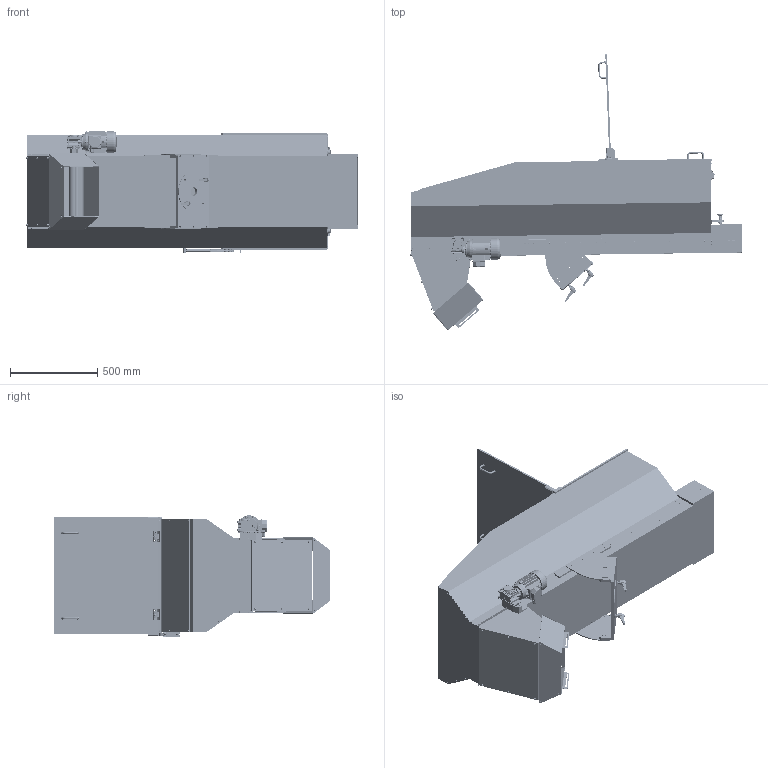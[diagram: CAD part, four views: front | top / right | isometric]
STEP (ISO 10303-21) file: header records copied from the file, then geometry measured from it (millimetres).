
FILE_DESCRIPTION (( 'STEP AP214' ), '1' );
FILE_NAME ('GM001464.00.step', '2026-07-06T12:04:07', ( '' ), ( '' ), 'SwSTEP 2.0', 'SolidWorks 2025', '' );
FILE_SCHEMA (( 'AUTOMOTIVE_DESIGN' ));
Length unit declared in the file: millimetre
Products named in the file (76): Copy of 40-TRM-BLO-002D-0-159^Copy of Blocco su sportello-1_3_Copy of Versione sportello APERTO_3_Copy of 20-TRM-KIT-005-0-150litri_1_CM001895; Copy of Cerniere-3_3^Copy of Versione sportello CHIUSO_3_Copy of 20-TRM-KIT-005-0-150litri_1_CM001895; Copy of MollaGasStabilus_082511_c100_f200_pos265.5_est100_3^Copy of Molla a gas-1_3_Copy of Versione sportello APERTO_3_Copy of 20-TRM-KIT-005-0-150litri_1_CM001895; Copy of ManElesa_GN425-10-88-CR_26501-1_3^Copy of Maniglie_3_Copy of Lexan sportello_3_Copy of Versione sportello CHIUSO_3_Copy of 20-TRM-KIT-005-0-150litri_1_CM001895; Copy of Spina_3^Copy of 20-TRM-KIT-005-0-150litri_1_CM001895; Copy of _Hinge with adjustable friction CFU.60 CH-6_1-158^Copy of CERNELESA_CFU-60-CH-6_427522-9_Copy of Cerniere-4_Copy of Versione sportello APERTO_3_Copy of 20-TRM-KIT-005-0-150litri_1_C~; Copy of Lamiera copertura_3^Copy of 20-TRM-KIT-005-0-150litri_1_CM001895; PD001825; Copy of 40-TRM-BLO-001-0_3^Copy of Blocchetto aggancio molla_3_Copy of 20-TRM-KIT-005-0-150litri_1_CM001895; Copy of MollaGasStabilus_082511_c100_f200_pos170_est4.5-160_1^Copy of MollaGasStabilus_082511_c100_f200_pos265.5_est100_3_Copy of Molla a gas-1_3_Copy of Versione sportello APERTO_3_Copy of ~; Copy of MollaGasStabilus_082511_c100_f200_pos170_est4.5-132^Copy of MollaGasStabilus_082511_c100_f200_pos170_est4.5_3_Copy of Molla a gas_3_Copy of Versione sportello CHIUSO_3_Copy of 20-TR~; Copy of 40-TRM-PIA-009-0_1^Copy of Piatto irrigidimento_3_Copy of Versione sportello CHIUSO_3_Copy of 20-TRM-KIT-005-0-150litri_1_CM001895; Copy of ManElesa_GN425-10-88-CR_26501-151^Copy of ManElesa_GN425-10-88-CR_26501-3_3_Copy of Maniglie-1_3_Copy of Lexan sportello-1_3_Copy of Versione sportello APERTO_3_Copy of 20-TRM-KIT-0~; GM001464.00; Copy of _Hinge with adjustable friction CFU.60 CH-60_2-140_1^Copy of CERNELESA_CFU-60-CH-6_427522-6_3_Copy of Superiori-1_3_Copy of Cerniere-3_3_Copy of Versione sportello CHIUSO_3_Copy of ~; Copy of Lexan sportello_3^Copy of Versione sportello CHIUSO_3_Copy of 20-TRM-KIT-005-0-150litri_1_CM001895; Copy of MollaGasStabilus_082511_c100_f200_pos170_est4.5-161^Copy of MollaGasStabilus_082511_c100_f200_pos265.5_est100_3_Copy of Molla a gas-1_3_Copy of Versione sportello APERTO_3_Copy of 20~; Copy of ManElesa_GN425-10-88-CR_26501-136_2^Copy of ManElesa_GN425-10-88-CR_26501_3_Copy of Maniglie_3_Copy of Lexan sportello_3_Copy of Versione sportello CHIUSO_3_Copy of 20-TRM-KIT-005-0~; CM001895; Copy of 40-TRM-LEX-002A-0_1^Copy of Lexan sportello_3_Copy of Versione sportello CHIUSO_3_Copy of 20-TRM-KIT-005-0-150litri_1_CM001895; Copy of _Hinge with adjustable friction CFU.60 CH-6_1-145_1^Copy of CERNELESA_CFU-60-CH-6_427522-7_3_Copy of Superiori-1_3_Copy of Cerniere-3_3_Copy of Versione sportello CHIUSO_3_Copy of 2~; Copy of Cerniere-4^Copy of Versione sportello APERTO_3_Copy of 20-TRM-KIT-005-0-150litri_1_CM001895; Copy of MollaGasStabilus_082511_c100_f200_pos170_est4.5-133^Copy of MollaGasStabilus_082511_c100_f200_pos170_est4.5_3_Copy of Molla a gas_3_Copy of Versione sportello CHIUSO_3_Copy of 20-TR~; Copy of ManElesa_GN425-10-88-CR_26501-146_1^Copy of ManElesa_GN425-10-88-CR_26501-2_3_Copy of Maniglie-1_3_Copy of Lexan sportello-1_3_Copy of Versione sportello APERTO_3_Copy of 20-TRM-KIT~; Copy of 40-TRM-PIA-009-0-163^Copy of Piatto irrigidimento-1_3_Copy of Versione sportello APERTO_3_Copy of 20-TRM-KIT-005-0-150litri_1_CM001895; Copy of ManElesa_GN425-10-88-CR_26501-135_2^Copy of ManElesa_GN425-10-88-CR_26501_3_Copy of Maniglie_3_Copy of Lexan sportello_3_Copy of Versione sportello CHIUSO_3_Copy of 20-TRM-KIT-005-0~; Copy of Lexan sportello-1_3^Copy of Versione sportello APERTO_3_Copy of 20-TRM-KIT-005-0-150litri_1_CM001895; Copy of CERNELESA_CFU-60-CH-6_427522-6_3^Copy of Superiori-1_3_Copy of Cerniere-3_3_Copy of Versione sportello CHIUSO_3_Copy of 20-TRM-KIT-005-0-150litri_1_CM001895; Copy of Versione sportello CHIUSO_3^Copy of 20-TRM-KIT-005-0-150litri_1_CM001895; Copy of Blocco su sportello_3^Copy of Versione sportello CHIUSO_3_Copy of 20-TRM-KIT-005-0-150litri_1_CM001895; Copy of 40-TRM-LAM-017-0_3^Copy of Lamiera copertura_3_Copy of 20-TRM-KIT-005-0-150litri_1_CM001895; Copy of CERNELESA_CFU-60-CH-6_427522-9^Copy of Cerniere-4_Copy of Versione sportello APERTO_3_Copy of 20-TRM-KIT-005-0-150litri_1_CM001895; Copy of ManElesa_GN425-10-88-CR_26501-148_1^Copy of ManElesa_GN425-10-88-CR_26501-2_3_Copy of Maniglie-1_3_Copy of Lexan sportello-1_3_Copy of Versione sportello APERTO_3_Copy of 20-TRM-KIT~; PD001824; Copy of 40-TRM-LEX-002A-0-152^Copy of Lexan sportello-1_3_Copy of Versione sportello APERTO_3_Copy of 20-TRM-KIT-005-0-150litri_1_CM001895; Copy of Molla a gas-1_3^Copy of Versione sportello APERTO_3_Copy of 20-TRM-KIT-005-0-150litri_1_CM001895; Copy of _Hinge with adjustable friction CFU.60 CH-60_2-143_1^Copy of CERNELESA_CFU-60-CH-6_427522-7_3_Copy of Superiori-1_3_Copy of Cerniere-3_3_Copy of Versione sportello CHIUSO_3_Copy of ~; Copy of MollaGasStabilus_082511_c100_f200_pos170_est4.5_3^Copy of Molla a gas_3_Copy of Versione sportello CHIUSO_3_Copy of 20-TRM-KIT-005-0-150litri_1_CM001895; Copy of Spine-1_3^Copy of Versione sportello APERTO_3_Copy of 20-TRM-KIT-005-0-150litri_1_CM001895; Copy of ManElesa_GN425-10-88-CR_26501-139^Copy of ManElesa_GN425-10-88-CR_26501-1_3_Copy of Maniglie_3_Copy of Lexan sportello_3_Copy of Versione sportello CHIUSO_3_Copy of 20-TRM-KIT-005-0~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
Assembly tree (77 placements, depth 8):
  GM001464.00
    CM001895
      Copia di CM001895^CM001895
      Copia di Supporto 150l^CM001895_Default<A macchina>
      Copy of 20-TRM-KIT-005-0-150litri_1^CM001895
        Copy of Blocchetto aggancio molla_3^Copy of 20-TRM-KIT-005-0-150litri_1_CM001895
          Copy of 40-TRM-BLO-001-0_3^Copy of Blocchetto aggancio molla_3_Copy of 20-TRM-KIT-005-0-150litri_1_CM001895
        Copy of Spina_3^Copy of 20-TRM-KIT-005-0-150litri_1_CM001895
          Copy of SpinaCil_6x25_3^Copy of Spina_3_Copy of 20-TRM-KIT-005-0-150litri_1_CM001895
        Copy of Versione sportello CHIUSO_3^Copy of 20-TRM-KIT-005-0-150litri_1_CM001895
          Copy of Molla a gas_3^Copy of Versione sportello CHIUSO_3_Copy of 20-TRM-KIT-005-0-150litri_1_CM001895
            Copy of MollaGasStabilus_082511_c100_f200_pos170_est4.5_3^Copy of Molla a gas_3_Copy of Versione sportello CHIUSO_3_Copy of 20-TRM-KIT-005-0-150litri_1_CM001895
              Copy of MollaGasStabilus_082511_c100_f200_pos170_est4.5-132^Copy of MollaGasStabilus_082511_c100_f200_pos170_est4.5_3_Copy of Molla a gas_3_Copy of Versione sportello CHIUSO_3_Copy of 20-TR~
              Copy of MollaGasStabilus_082511_c100_f200_pos170_est4.5-133^Copy of MollaGasStabilus_082511_c100_f200_pos170_est4.5_3_Copy of Molla a gas_3_Copy of Versione sportello CHIUSO_3_Copy of 20-TR~
          Copy of Spine_3^Copy of Versione sportello CHIUSO_3_Copy of 20-TRM-KIT-005-0-150litri_1_CM001895
            Copy of SpinaCil_6x20_3^Copy of Spine_3_Copy of Versione sportello CHIUSO_3_Copy of 20-TRM-KIT-005-0-150litri_1_CM001895
          Copy of Lexan sportello_3^Copy of Versione sportello CHIUSO_3_Copy of 20-TRM-KIT-005-0-150litri_1_CM001895
            Copy of Maniglie_3^Copy of Lexan sportello_3_Copy of Versione sportello CHIUSO_3_Copy of 20-TRM-KIT-005-0-150litri_1_CM001895
              Copy of ManElesa_GN425-10-88-CR_26501_3^Copy of Maniglie_3_Copy of Lexan sportello_3_Copy of Versione sportello CHIUSO_3_Copy of 20-TRM-KIT-005-0-150litri_1_CM001895
                Copy of ManElesa_GN425-10-88-CR_26501-134_2^Copy of ManElesa_GN425-10-88-CR_26501_3_Copy of Maniglie_3_Copy of Lexan sportello_3_Copy of Versione sportello CHIUSO_3_Copy of 20-TRM-KIT-005-0~
                Copy of ManElesa_GN425-10-88-CR_26501-135_2^Copy of ManElesa_GN425-10-88-CR_26501_3_Copy of Maniglie_3_Copy of Lexan sportello_3_Copy of Versione sportello CHIUSO_3_Copy of 20-TRM-KIT-005-0~
                Copy of ManElesa_GN425-10-88-CR_26501-136_2^Copy of ManElesa_GN425-10-88-CR_26501_3_Copy of Maniglie_3_Copy of Lexan sportello_3_Copy of Versione sportello CHIUSO_3_Copy of 20-TRM-KIT-005-0~
              Copy of ManElesa_GN425-10-88-CR_26501-1_3^Copy of Maniglie_3_Copy of Lexan sportello_3_Copy of Versione sportello CHIUSO_3_Copy of 20-TRM-KIT-005-0-150litri_1_CM001895
                Copy of ManElesa_GN425-10-88-CR_26501-137_2^Copy of ManElesa_GN425-10-88-CR_26501-1_3_Copy of Maniglie_3_Copy of Lexan sportello_3_Copy of Versione sportello CHIUSO_3_Copy of 20-TRM-KIT-005~
                Copy of ManElesa_GN425-10-88-CR_26501-138^Copy of ManElesa_GN425-10-88-CR_26501-1_3_Copy of Maniglie_3_Copy of Lexan sportello_3_Copy of Versione sportello CHIUSO_3_Copy of 20-TRM-KIT-005-0~
                Copy of ManElesa_GN425-10-88-CR_26501-139^Copy of ManElesa_GN425-10-88-CR_26501-1_3_Copy of Maniglie_3_Copy of Lexan sportello_3_Copy of Versione sportello CHIUSO_3_Copy of 20-TRM-KIT-005-0~
            Copy of 40-TRM-LEX-002A-0_1^Copy of Lexan sportello_3_Copy of Versione sportello CHIUSO_3_Copy of 20-TRM-KIT-005-0-150litri_1_CM001895
          Copy of Blocco su sportello_3^Copy of Versione sportello CHIUSO_3_Copy of 20-TRM-KIT-005-0-150litri_1_CM001895
            Copy of 40-TRM-BLO-002D-0_3^Copy of Blocco su sportello_3_Copy of Versione sportello CHIUSO_3_Copy of 20-TRM-KIT-005-0-150litri_1_CM001895
          Copy of Cerniere-3_3^Copy of Versione sportello CHIUSO_3_Copy of 20-TRM-KIT-005-0-150litri_1_CM001895
            Copy of Superiori-1_3^Copy of Cerniere-3_3_Copy of Versione sportello CHIUSO_3_Copy of 20-TRM-KIT-005-0-150litri_1_CM001895
              Copy of CERNELESA_CFU-60-CH-6_427522-6_3^Copy of Superiori-1_3_Copy of Cerniere-3_3_Copy of Versione sportello CHIUSO_3_Copy of 20-TRM-KIT-005-0-150litri_1_CM001895
                Copy of _Hinge with adjustable friction CFU.60 CH-60_2-140_1^Copy of CERNELESA_CFU-60-CH-6_427522-6_3_Copy of Superiori-1_3_Copy of Cerniere-3_3_Copy of Versione sportello CHIUSO_3_Copy of ~
                Copy of _Hinge with adjustable friction CFU.60 CH-60_3-141_1^Copy of CERNELESA_CFU-60-CH-6_427522-6_3_Copy of Superiori-1_3_Copy of Cerniere-3_3_Copy of Versione sportello CHIUSO_3_Copy of ~
                Copy of _Hinge with adjustable friction CFU.60 CH-6_1-142_1^Copy of CERNELESA_CFU-60-CH-6_427522-6_3_Copy of Superiori-1_3_Copy of Cerniere-3_3_Copy of Versione sportello CHIUSO_3_Copy of 2~
              Copy of CERNELESA_CFU-60-CH-6_427522-7_3^Copy of Superiori-1_3_Copy of Cerniere-3_3_Copy of Versione sportello CHIUSO_3_Copy of 20-TRM-KIT-005-0-150litri_1_CM001895
                Copy of _Hinge with adjustable friction CFU.60 CH-60_2-143_1^Copy of CERNELESA_CFU-60-CH-6_427522-7_3_Copy of Superiori-1_3_Copy of Cerniere-3_3_Copy of Versione sportello CHIUSO_3_Copy of ~
                Copy of _Hinge with adjustable friction CFU.60 CH-60_3-144_1^Copy of CERNELESA_CFU-60-CH-6_427522-7_3_Copy of Superiori-1_3_Copy of Cerniere-3_3_Copy of Versione sportello CHIUSO_3_Copy of ~
                Copy of _Hinge with adjustable friction CFU.60 CH-6_1-145_1^Copy of CERNELESA_CFU-60-CH-6_427522-7_3_Copy of Superiori-1_3_Copy of Cerniere-3_3_Copy of Versione sportello CHIUSO_3_Copy of 2~
          Copy of Piatto irrigidimento_3^Copy of Versione sportello CHIUSO_3_Copy of 20-TRM-KIT-005-0-150litri_1_CM001895
            Copy of 40-TRM-PIA-009-0_1^Copy of Piatto irrigidimento_3_Copy of Versione sportello CHIUSO_3_Copy of 20-TRM-KIT-005-0-150litri_1_CM001895
        Copy of Versione sportello APERTO_3^Copy of 20-TRM-KIT-005-0-150litri_1_CM001895
          Copy of Lexan sportello-1_3^Copy of Versione sportello APERTO_3_Copy of 20-TRM-KIT-005-0-150litri_1_CM001895
            Copy of Maniglie-1_3^Copy of Lexan sportello-1_3_Copy of Versione sportello APERTO_3_Copy of 20-TRM-KIT-005-0-150litri_1_CM001895
              Copy of ManElesa_GN425-10-88-CR_26501-2_3^Copy of Maniglie-1_3_Copy of Lexan sportello-1_3_Copy of Versione sportello APERTO_3_Copy of 20-TRM-KIT-005-0-150litri_1_CM001895
                Copy of ManElesa_GN425-10-88-CR_26501-146_1^Copy of ManElesa_GN425-10-88-CR_26501-2_3_Copy of Maniglie-1_3_Copy of Lexan sportello-1_3_Copy of Versione sportello APERTO_3_Copy of 20-TRM-KIT~
                Copy of ManElesa_GN425-10-88-CR_26501-147_1^Copy of ManElesa_GN425-10-88-CR_26501-2_3_Copy of Maniglie-1_3_Copy of Lexan sportello-1_3_Copy of Versione sportello APERTO_3_Copy of 20-TRM-KIT~
                Copy of ManElesa_GN425-10-88-CR_26501-148_1^Copy of ManElesa_GN425-10-88-CR_26501-2_3_Copy of Maniglie-1_3_Copy of Lexan sportello-1_3_Copy of Versione sportello APERTO_3_Copy of 20-TRM-KIT~
              Copy of ManElesa_GN425-10-88-CR_26501-3_3^Copy of Maniglie-1_3_Copy of Lexan sportello-1_3_Copy of Versione sportello APERTO_3_Copy of 20-TRM-KIT-005-0-150litri_1_CM001895
                Copy of ManElesa_GN425-10-88-CR_26501-149_1^Copy of ManElesa_GN425-10-88-CR_26501-3_3_Copy of Maniglie-1_3_Copy of Lexan sportello-1_3_Copy of Versione sportello APERTO_3_Copy of 20-TRM-KIT~
                Copy of ManElesa_GN425-10-88-CR_26501-150_1^Copy of ManElesa_GN425-10-88-CR_26501-3_3_Copy of Maniglie-1_3_Copy of Lexan sportello-1_3_Copy of Versione sportello APERTO_3_Copy of 20-TRM-KIT~
                Copy of ManElesa_GN425-10-88-CR_26501-151^Copy of ManElesa_GN425-10-88-CR_26501-3_3_Copy of Maniglie-1_3_Copy of Lexan sportello-1_3_Copy of Versione sportello APERTO_3_Copy of 20-TRM-KIT-0~
            Copy of 40-TRM-LEX-002A-0-152^Copy of Lexan sportello-1_3_Copy of Versione sportello APERTO_3_Copy of 20-TRM-KIT-005-0-150litri_1_CM001895
          Copy of Cerniere-4^Copy of Versione sportello APERTO_3_Copy of 20-TRM-KIT-005-0-150litri_1_CM001895
            Copy of CERNELESA_CFU-60-CH-6_427522-8^Copy of Cerniere-4_Copy of Versione sportello APERTO_3_Copy of 20-TRM-KIT-005-0-150litri_1_CM001895
              Copy of _Hinge with adjustable friction CFU.60 CH-60_2-153^Copy of CERNELESA_CFU-60-CH-6_427522-8_Copy of Cerniere-4_Copy of Versione sportello APERTO_3_Copy of 20-TRM-KIT-005-0-150litri_1_~
              Copy of _Hinge with adjustable friction CFU.60 CH-60_3-154^Copy of CERNELESA_CFU-60-CH-6_427522-8_Copy of Cerniere-4_Copy of Versione sportello APERTO_3_Copy of 20-TRM-KIT-005-0-150litri_1_~
              Copy of _Hinge with adjustable friction CFU.60 CH-6_1-155^Copy of CERNELESA_CFU-60-CH-6_427522-8_Copy of Cerniere-4_Copy of Versione sportello APERTO_3_Copy of 20-TRM-KIT-005-0-150litri_1_C~
            Copy of CERNELESA_CFU-60-CH-6_427522-9^Copy of Cerniere-4_Copy of Versione sportello APERTO_3_Copy of 20-TRM-KIT-005-0-150litri_1_CM001895
              Copy of _Hinge with adjustable friction CFU.60 CH-60_2-156^Copy of CERNELESA_CFU-60-CH-6_427522-9_Copy of Cerniere-4_Copy of Versione sportello APERTO_3_Copy of 20-TRM-KIT-005-0-150litri_1_~
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Bounding box: 1905.38 x 1588.7 x 697.9 mm (x, y, z)
Volume: 9863279.6 mm3; surface area: 21388469.8 mm2
Topology: 43 solids, 515 shells, 8944 faces, 23204 edges, 15122 vertices
Faces by surface type: plane 4063, cylinder 3577, cone 895, bspline 211, torus 100, sphere 98
Entity records: 309543 total; most frequent: CARTESIAN_POINT 88287, ORIENTED_EDGE 44988, DIRECTION 44792, EDGE_CURVE 22754, AXIS2_PLACEMENT_3D 16644, VERTEX_POINT 14917, LINE 11504, VECTOR 11504
